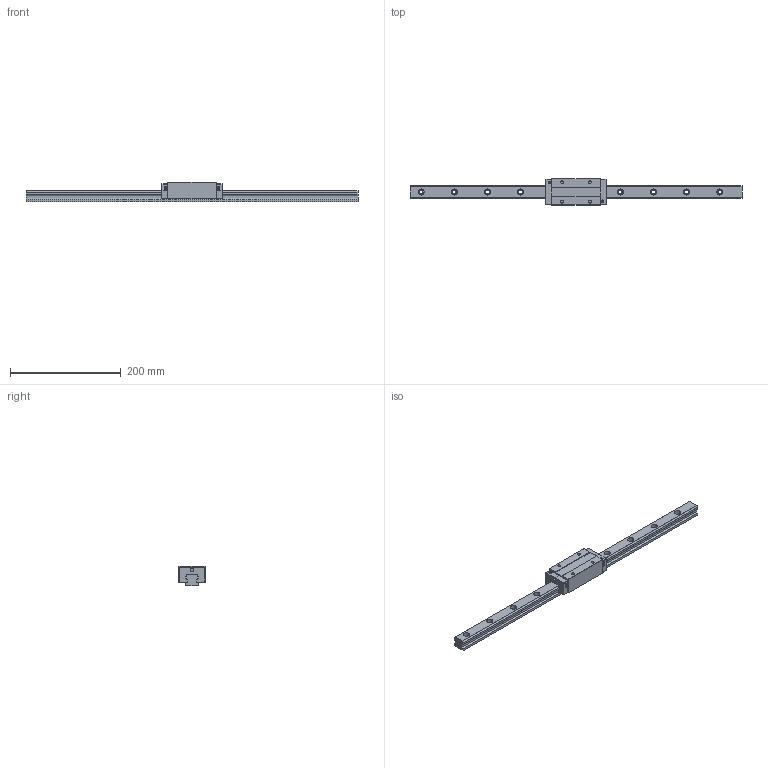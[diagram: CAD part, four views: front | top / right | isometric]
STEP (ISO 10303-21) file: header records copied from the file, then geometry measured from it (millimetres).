
FILE_DESCRIPTION (( 'STEP AP203' ), '1' );
FILE_NAME ('SRC25VE-XNC.STEP', '2026-02-12T07:52:17', ( '' ), ( '' ), 'SwSTEP 2.0', 'SolidWorks 2022', '' );
FILE_SCHEMA (( 'CONFIG_CONTROL_DESIGN' ));
Length unit declared in the file: millimetre
Products named in the file (1): SRC25VE-XNC
Bounding box: 600 x 48 x 36 mm (x, y, z)
Volume: 353950 mm3; surface area: 80309.6 mm2
Topology: 1 solids, 1 shells, 353 faces, 960 edges, 638 vertices
Faces by surface type: plane 173, cylinder 96, bspline 84
Entity records: 16169 total; most frequent: CARTESIAN_POINT 7508, ORIENTED_EDGE 1920, DIRECTION 1526, EDGE_CURVE 960, VERTEX_POINT 638, LINE 598, VECTOR 598, AXIS2_PLACEMENT_3D 464
